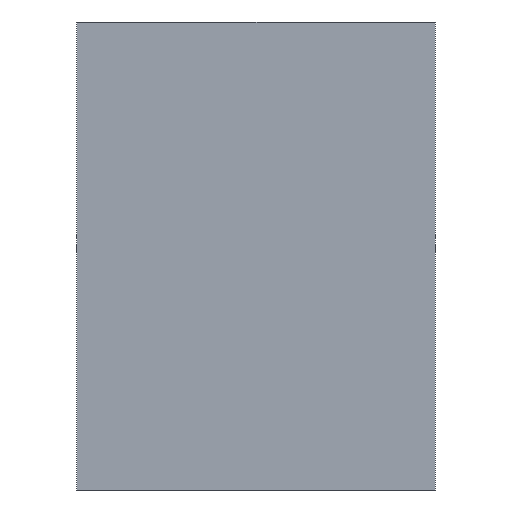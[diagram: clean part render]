
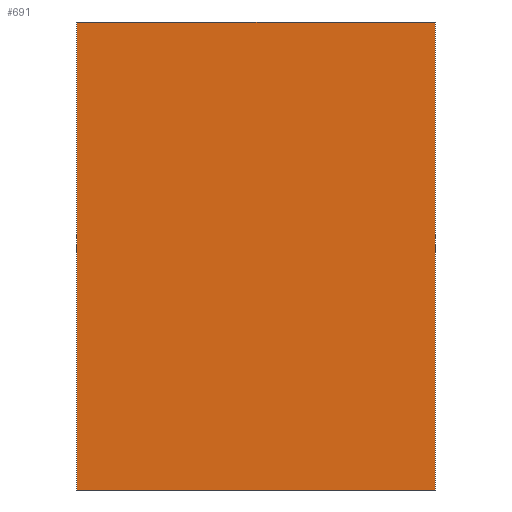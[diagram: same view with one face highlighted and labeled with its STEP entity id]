
A CAD part, left-side view. The second image highlights one B-rep face of the part: STEP entity #691.
In plain terms, the highlighted planar face has unit normal (-1, 0, 0).
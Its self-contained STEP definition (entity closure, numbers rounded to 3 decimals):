
#44 = PLANE('',#45);
#45 = AXIS2_PLACEMENT_3D('',#46,#47,#48);
#46 = CARTESIAN_POINT('',(-0.262,0.115,-0.15));
#47 = DIRECTION('',(0.,0.,1.));
#48 = DIRECTION('',(0.,-1.,0.));
#236 = VERTEX_POINT('',#237);
#237 = CARTESIAN_POINT('',(-0.3,0.23,-0.15));
#251 = PLANE('',#252);
#252 = AXIS2_PLACEMENT_3D('',#253,#254,#255);
#253 = CARTESIAN_POINT('',(-0.2,0.23,-0.15));
#254 = DIRECTION('',(0.,-1.,0.));
#255 = DIRECTION('',(-1.,0.,0.));
#263 = EDGE_CURVE('',#236,#264,#266,.T.);
#264 = VERTEX_POINT('',#265);
#265 = CARTESIAN_POINT('',(-0.3,0.,-0.15));
#266 = SURFACE_CURVE('',#267,(#271,#278),.PCURVE_S1.);
#267 = LINE('',#268,#269);
#268 = CARTESIAN_POINT('',(-0.3,0.23,-0.15));
#269 = VECTOR('',#270,1.);
#270 = DIRECTION('',(0.,-1.,0.));
#271 = PCURVE('',#44,#272);
#272 = DEFINITIONAL_REPRESENTATION('',(#273),#277);
#273 = LINE('',#274,#275);
#274 = CARTESIAN_POINT('',(-0.115,-0.038));
#275 = VECTOR('',#276,1.);
#276 = DIRECTION('',(1.,0.));
#277 = ( GEOMETRIC_REPRESENTATION_CONTEXT(2) 
PARAMETRIC_REPRESENTATION_CONTEXT() REPRESENTATION_CONTEXT('2D SPACE',''
  ) );
#278 = PCURVE('',#279,#284);
#279 = PLANE('',#280);
#280 = AXIS2_PLACEMENT_3D('',#281,#282,#283);
#281 = CARTESIAN_POINT('',(-0.3,0.23,-0.15));
#282 = DIRECTION('',(1.,0.,-0.));
#283 = DIRECTION('',(0.,-1.,0.));
#284 = DEFINITIONAL_REPRESENTATION('',(#285),#289);
#285 = LINE('',#286,#287);
#286 = CARTESIAN_POINT('',(0.,0.));
#287 = VECTOR('',#288,1.);
#288 = DIRECTION('',(1.,0.));
#289 = ( GEOMETRIC_REPRESENTATION_CONTEXT(2) 
PARAMETRIC_REPRESENTATION_CONTEXT() REPRESENTATION_CONTEXT('2D SPACE',''
  ) );
#307 = PLANE('',#308);
#308 = AXIS2_PLACEMENT_3D('',#309,#310,#311);
#309 = CARTESIAN_POINT('',(-0.3,0.,-0.15));
#310 = DIRECTION('',(0.,1.,0.));
#311 = DIRECTION('',(1.,0.,0.));
#643 = VERTEX_POINT('',#644);
#644 = CARTESIAN_POINT('',(-0.3,0.23,0.15));
#658 = PLANE('',#659);
#659 = AXIS2_PLACEMENT_3D('',#660,#661,#662);
#660 = CARTESIAN_POINT('',(-0.262,0.115,0.15));
#661 = DIRECTION('',(0.,0.,1.));
#662 = DIRECTION('',(0.,-1.,0.));
#670 = EDGE_CURVE('',#236,#643,#671,.T.);
#671 = SURFACE_CURVE('',#672,(#676,#683),.PCURVE_S1.);
#672 = LINE('',#673,#674);
#673 = CARTESIAN_POINT('',(-0.3,0.23,-0.15));
#674 = VECTOR('',#675,1.);
#675 = DIRECTION('',(0.,0.,1.));
#676 = PCURVE('',#251,#677);
#677 = DEFINITIONAL_REPRESENTATION('',(#678),#682);
#678 = LINE('',#679,#680);
#679 = CARTESIAN_POINT('',(0.1,0.));
#680 = VECTOR('',#681,1.);
#681 = DIRECTION('',(0.,-1.));
#682 = ( GEOMETRIC_REPRESENTATION_CONTEXT(2) 
PARAMETRIC_REPRESENTATION_CONTEXT() REPRESENTATION_CONTEXT('2D SPACE',''
  ) );
#683 = PCURVE('',#279,#684);
#684 = DEFINITIONAL_REPRESENTATION('',(#685),#689);
#685 = LINE('',#686,#687);
#686 = CARTESIAN_POINT('',(0.,0.));
#687 = VECTOR('',#688,1.);
#688 = DIRECTION('',(0.,-1.));
#689 = ( GEOMETRIC_REPRESENTATION_CONTEXT(2) 
PARAMETRIC_REPRESENTATION_CONTEXT() REPRESENTATION_CONTEXT('2D SPACE',''
  ) );
#691 = ADVANCED_FACE('',(#692),#279,.F.);
#692 = FACE_BOUND('',#693,.F.);
#693 = EDGE_LOOP('',(#694,#695,#718,#739));
#694 = ORIENTED_EDGE('',*,*,#670,.T.);
#695 = ORIENTED_EDGE('',*,*,#696,.T.);
#696 = EDGE_CURVE('',#643,#697,#699,.T.);
#697 = VERTEX_POINT('',#698);
#698 = CARTESIAN_POINT('',(-0.3,0.,0.15));
#699 = SURFACE_CURVE('',#700,(#704,#711),.PCURVE_S1.);
#700 = LINE('',#701,#702);
#701 = CARTESIAN_POINT('',(-0.3,0.23,0.15));
#702 = VECTOR('',#703,1.);
#703 = DIRECTION('',(0.,-1.,0.));
#704 = PCURVE('',#279,#705);
#705 = DEFINITIONAL_REPRESENTATION('',(#706),#710);
#706 = LINE('',#707,#708);
#707 = CARTESIAN_POINT('',(0.,-0.3));
#708 = VECTOR('',#709,1.);
#709 = DIRECTION('',(1.,0.));
#710 = ( GEOMETRIC_REPRESENTATION_CONTEXT(2) 
PARAMETRIC_REPRESENTATION_CONTEXT() REPRESENTATION_CONTEXT('2D SPACE',''
  ) );
#711 = PCURVE('',#658,#712);
#712 = DEFINITIONAL_REPRESENTATION('',(#713),#717);
#713 = LINE('',#714,#715);
#714 = CARTESIAN_POINT('',(-0.115,-0.038));
#715 = VECTOR('',#716,1.);
#716 = DIRECTION('',(1.,0.));
#717 = ( GEOMETRIC_REPRESENTATION_CONTEXT(2) 
PARAMETRIC_REPRESENTATION_CONTEXT() REPRESENTATION_CONTEXT('2D SPACE',''
  ) );
#718 = ORIENTED_EDGE('',*,*,#719,.F.);
#719 = EDGE_CURVE('',#264,#697,#720,.T.);
#720 = SURFACE_CURVE('',#721,(#725,#732),.PCURVE_S1.);
#721 = LINE('',#722,#723);
#722 = CARTESIAN_POINT('',(-0.3,0.,-0.15));
#723 = VECTOR('',#724,1.);
#724 = DIRECTION('',(0.,0.,1.));
#725 = PCURVE('',#279,#726);
#726 = DEFINITIONAL_REPRESENTATION('',(#727),#731);
#727 = LINE('',#728,#729);
#728 = CARTESIAN_POINT('',(0.23,0.));
#729 = VECTOR('',#730,1.);
#730 = DIRECTION('',(0.,-1.));
#731 = ( GEOMETRIC_REPRESENTATION_CONTEXT(2) 
PARAMETRIC_REPRESENTATION_CONTEXT() REPRESENTATION_CONTEXT('2D SPACE',''
  ) );
#732 = PCURVE('',#307,#733);
#733 = DEFINITIONAL_REPRESENTATION('',(#734),#738);
#734 = LINE('',#735,#736);
#735 = CARTESIAN_POINT('',(0.,0.));
#736 = VECTOR('',#737,1.);
#737 = DIRECTION('',(0.,-1.));
#738 = ( GEOMETRIC_REPRESENTATION_CONTEXT(2) 
PARAMETRIC_REPRESENTATION_CONTEXT() REPRESENTATION_CONTEXT('2D SPACE',''
  ) );
#739 = ORIENTED_EDGE('',*,*,#263,.F.);
